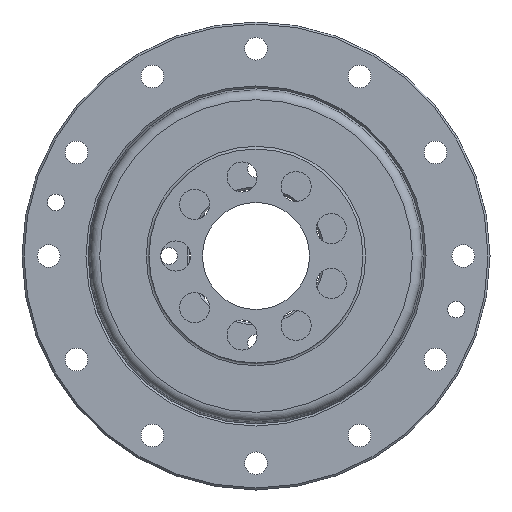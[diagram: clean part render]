
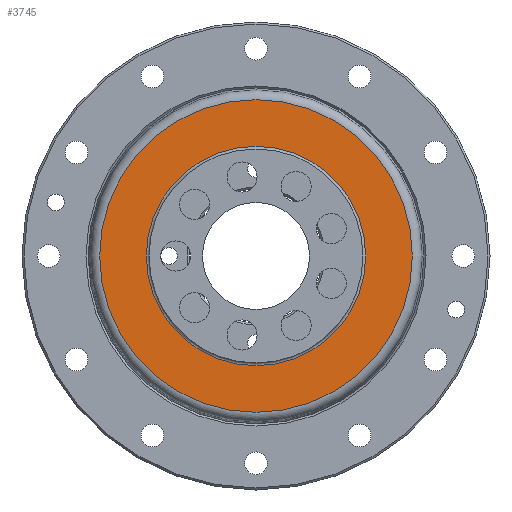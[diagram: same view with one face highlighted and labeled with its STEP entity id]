
A CAD part, left-side view. The second image highlights one B-rep face of the part: STEP entity #3745.
In plain terms, the highlighted planar face has unit normal (-1, 0, 0).
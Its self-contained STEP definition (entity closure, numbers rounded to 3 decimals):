
#377 = CIRCLE ( 'NONE', #4970, 16.4 ) ;
#493 = DIRECTION ( 'NONE',  ( 1., 0., 0. ) ) ;
#722 = EDGE_LOOP ( 'NONE', ( #2650 ) ) ;
#975 = CARTESIAN_POINT ( 'NONE',  ( 1.7, 0., 0. ) ) ;
#1215 = EDGE_CURVE ( 'NONE', #1866, #1866, #377, .T. ) ;
#1854 = DIRECTION ( 'NONE',  ( -1., 0., 0. ) ) ;
#1866 = VERTEX_POINT ( 'NONE', #2117 ) ;
#2117 = CARTESIAN_POINT ( 'NONE',  ( 1.7, 0., 16.4 ) ) ;
#2144 = FACE_BOUND ( 'NONE', #2394, .T. ) ;
#2394 = EDGE_LOOP ( 'NONE', ( #2901 ) ) ;
#2650 = ORIENTED_EDGE ( 'NONE', *, *, #2995, .T. ) ;
#2901 = ORIENTED_EDGE ( 'NONE', *, *, #1215, .F. ) ;
#2995 = EDGE_CURVE ( 'NONE', #5725, #5725, #5553, .T. ) ;
#3299 = PLANE ( 'NONE',  #3398 ) ;
#3375 = DIRECTION ( 'NONE',  ( 0., 0., 1. ) ) ;
#3398 = AXIS2_PLACEMENT_3D ( 'NONE', #5671, #493, #3789 ) ;
#3567 = AXIS2_PLACEMENT_3D ( 'NONE', #975, #3862, #3375 ) ;
#3568 = CARTESIAN_POINT ( 'NONE',  ( 1.7, 0., 23.385 ) ) ;
#3745 = ADVANCED_FACE ( 'NONE', ( #2144, #4509 ), #3299, .F. ) ;
#3789 = DIRECTION ( 'NONE',  ( 0., 0., -1. ) ) ;
#3862 = DIRECTION ( 'NONE',  ( -1., 0., 0. ) ) ;
#4509 = FACE_OUTER_BOUND ( 'NONE', #722, .T. ) ;
#4685 = DIRECTION ( 'NONE',  ( 0., 0., 1. ) ) ;
#4970 = AXIS2_PLACEMENT_3D ( 'NONE', #5154, #1854, #4685 ) ;
#5154 = CARTESIAN_POINT ( 'NONE',  ( 1.7, 0., 0. ) ) ;
#5553 = CIRCLE ( 'NONE', #3567, 23.385 ) ;
#5671 = CARTESIAN_POINT ( 'NONE',  ( 1.7, 23.385, 0. ) ) ;
#5725 = VERTEX_POINT ( 'NONE', #3568 ) ;
